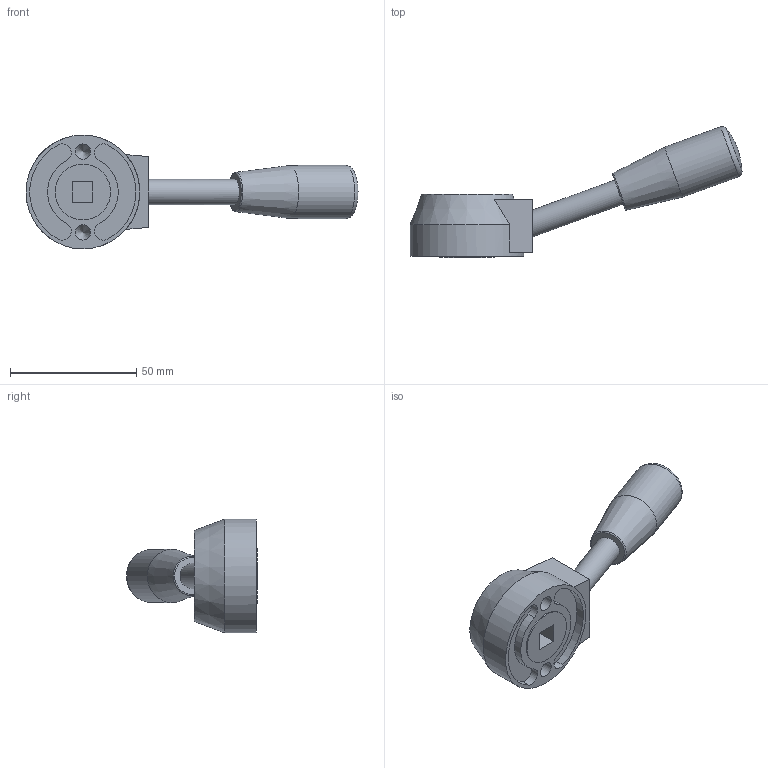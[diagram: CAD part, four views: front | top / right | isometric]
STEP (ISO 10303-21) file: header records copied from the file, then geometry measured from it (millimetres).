
FILE_DESCRIPTION( ( 'STEP AP203' ), '1' );
FILE_NAME( 'C:/Temp/Ganter_Step_05_03_2020/data/2_1/gn_512/gn_512_v/Control lever GN 512-45-V8.stp', '2020-03-05T11:51:43', ( 'License CC BY-ND 4.0' ), ( 'CADENAS' ), ' ', 'PARTsolutions', ' ' );
FILE_SCHEMA( ( 'CONFIG_CONTROL_DESIGN' ) );
Length unit declared in the file: millimetre
Products named in the file (1): _Control lever GN 512-45-V8
Bounding box: 131.34 x 51.82 x 45 mm (x, y, z)
Volume: 52549.3 mm3; surface area: 13299.1 mm2
Topology: 1 solids, 1 shells, 39 faces, 88 edges, 57 vertices
Faces by surface type: plane 17, cylinder 15, cone 4, torus 2, sphere 1
Full cylindrical faces by diameter (mm): 6 x2, 10 x1, 21 x1, 22 x1, 25 x1, 45 x1
Entity records: 1040 total; most frequent: DIRECTION 182, CARTESIAN_POINT 176, ORIENTED_EDGE 136, AXIS2_PLACEMENT_3D 76, EDGE_CURVE 68, EDGE_LOOP 59, VERTEX_POINT 54, FACE_OUTER_BOUND 48
